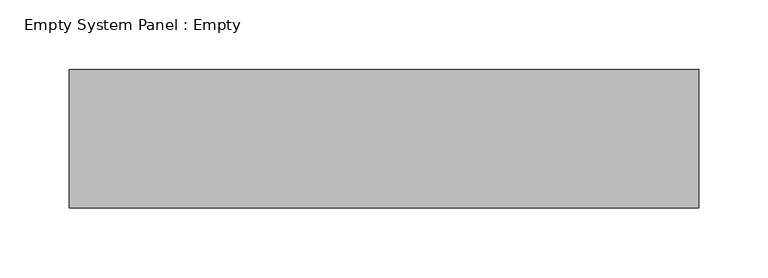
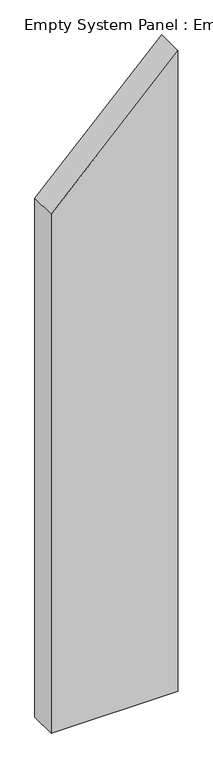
"""IFC4 building model written with IfcOpenShell, lengths in millimetres: plate geometry, Empty System Panel : Empty."""

from ifc_helpers import new_model, si_unit, frame, origin, place, context, project, spatial, polyline, outline, extrude, source, transform, mapped, element, save


def empty_system_panel_empty_653fa539(model_context):
    return source(origin(), model_context, "Body", "SweptSolid", [
        extrude(outline(polyline([(0.0, -226.4404253), (0.0, 226.4404253), (2414.8649818, 226.4404253), (1956.9175624, -226.4404253), (0.0, -226.4404253)])), frame((0.0, -50.0, 0.0), z_axis=(0.0, 1.0, 0.0), x_axis=(0.0, 0.0, 1.0)), (0.0, 0.0, 1.0), 100.0),
    ])


if __name__ == "__main__":
    model = new_model("IFC4")
    model_context = context("Model", 3, world=origin())
    ifc_project = project(units=[si_unit("LENGTHUNIT", "METRE", prefix="MILLI")], contexts=[model_context])
    site = spatial("IfcSite", under=ifc_project)
    building = spatial("IfcBuilding", under=site)
    placement = place(None, origin())
    empty_system_panel_empty_shape = empty_system_panel_empty_653fa539(model_context)
    element("IfcPlate", 1, ObjectType="Empty System Panel : Empty", at=placement, inside=building, context=model_context, shape_type="MappedRepresentation", body=[
        mapped(empty_system_panel_empty_shape, transform((0.0, 0.0, 0.0), x_axis=(1.0, 0.0, 0.0), y_axis=(0.0, 1.0, 0.0), z_axis=(0.0, 0.0, 1.0))),
    ])
    save(model, "model.ifc")
